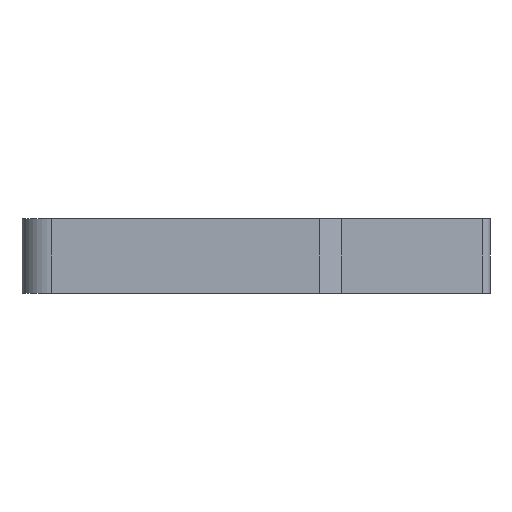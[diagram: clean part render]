
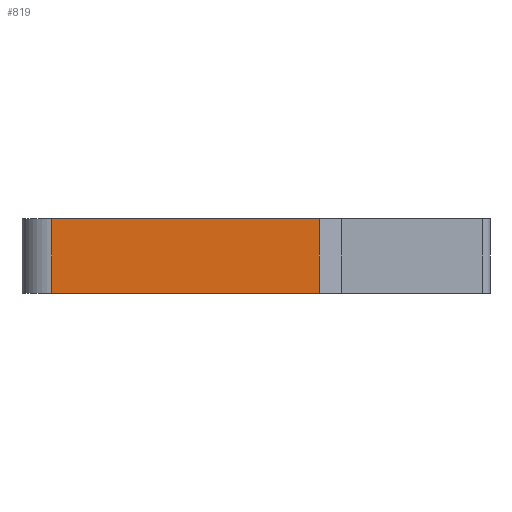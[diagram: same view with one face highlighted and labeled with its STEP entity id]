
A CAD part, left-side view. The second image highlights one B-rep face of the part: STEP entity #819.
In plain terms, the highlighted planar face has unit normal (-1, 0, 0).
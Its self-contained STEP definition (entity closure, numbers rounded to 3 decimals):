
#28=PLANE('',#911);
#69=FACE_OUTER_BOUND('',#111,.T.);
#111=EDGE_LOOP('',(#679,#680,#681,#682));
#152=LINE('',#1238,#244);
#195=LINE('',#1355,#287);
#196=LINE('',#1358,#288);
#197=LINE('',#1359,#289);
#244=VECTOR('',#997,10.);
#287=VECTOR('',#1104,10.);
#288=VECTOR('',#1107,10.);
#289=VECTOR('',#1108,10.);
#366=VERTEX_POINT('',#1235);
#367=VERTEX_POINT('',#1237);
#408=VERTEX_POINT('',#1351);
#410=VERTEX_POINT('',#1357);
#454=EDGE_CURVE('',#367,#366,#152,.T.);
#514=EDGE_CURVE('',#367,#408,#195,.T.);
#515=EDGE_CURVE('',#366,#410,#196,.T.);
#516=EDGE_CURVE('',#408,#410,#197,.T.);
#679=ORIENTED_EDGE('',*,*,#514,.F.);
#680=ORIENTED_EDGE('',*,*,#454,.T.);
#681=ORIENTED_EDGE('',*,*,#515,.T.);
#682=ORIENTED_EDGE('',*,*,#516,.F.);
#819=ADVANCED_FACE('',(#69),#28,.T.);
#911=AXIS2_PLACEMENT_3D('',#1356,#1105,#1106);
#997=DIRECTION('',(0.,-1.,0.));
#1104=DIRECTION('',(0.,0.,1.));
#1105=DIRECTION('center_axis',(-1.,0.,0.));
#1106=DIRECTION('ref_axis',(0.,-1.,0.));
#1107=DIRECTION('',(0.,0.,1.));
#1108=DIRECTION('',(0.,-1.,0.));
#1235=CARTESIAN_POINT('',(-20.,0.,0.));
#1237=CARTESIAN_POINT('',(-20.,18.,0.));
#1238=CARTESIAN_POINT('',(-20.,20.,0.));
#1351=CARTESIAN_POINT('',(-20.,18.,5.));
#1355=CARTESIAN_POINT('',(-20.,18.,0.));
#1356=CARTESIAN_POINT('Origin',(-20.,20.,0.));
#1357=CARTESIAN_POINT('',(-20.,0.,5.));
#1358=CARTESIAN_POINT('',(-20.,0.,0.));
#1359=CARTESIAN_POINT('',(-20.,20.,5.));
